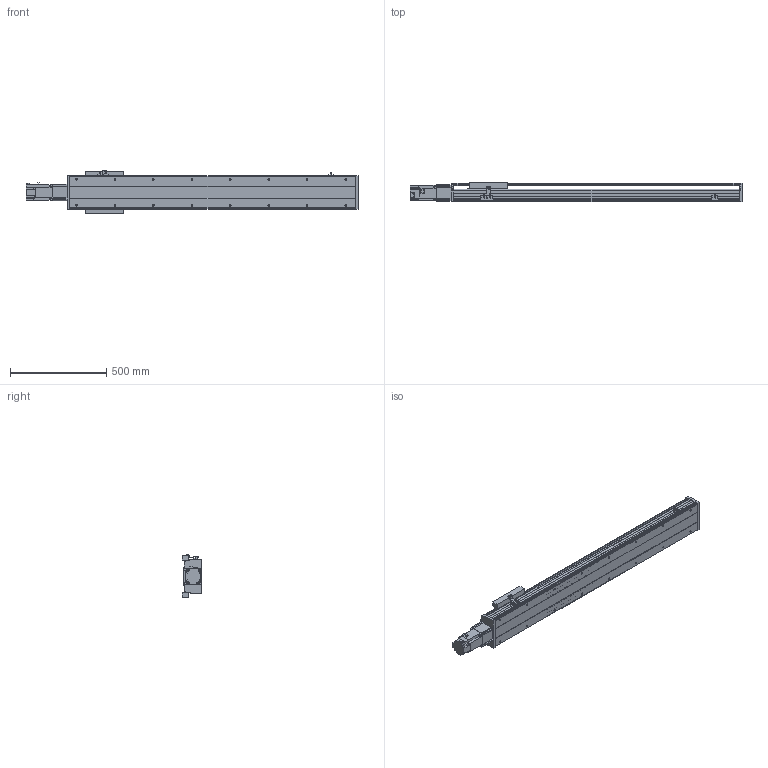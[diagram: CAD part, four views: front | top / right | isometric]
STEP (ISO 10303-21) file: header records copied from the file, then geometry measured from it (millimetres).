
FILE_DESCRIPTION(/* description */ ('STEP AP214'),/* implementation_level */ '2;1');
FILE_NAME(/* name */ 'PSS200-L10-S1150-BC-T75-C1-N(0)',/* time_stamp */ '2022-06-06T04:37:09+02:00',/* author */ ('License CC BY-ND 4.0'),/* organization */ ('CADENAS'),/* preprocessor_version */ 'ST-DEVELOPER v18.102',/* originating_system */ 'PARTsolutions',/* authorisation */ ' ');
FILE_SCHEMA (('AUTOMOTIVE_DESIGN {1 0 10303 214 3 1 1}'));
Length unit declared in the file: millimetre
Products named in the file (8): PSS200-L10-S1150-BC-T75-C1-N(0); PSS200-S1150-BC-N_S; T75-p1; PSS200BC-N_h; PSS200-N_sensor; PSS200-BC-C1-N_sl; PSS200-N_Q; PSS200-S1150-BC-C1-N_body
Assembly tree (9 placements, depth 2):
  PSS200-L10-S1150-BC-T75-C1-N(0)
    PSS200-S1150-BC-N_S
    T75-p1
    PSS200BC-N_h
    PSS200-N_sensor  x3
    PSS200-BC-C1-N_sl
    PSS200-N_Q
    PSS200-S1150-BC-C1-N_body
Bounding box: 1726.3 x 101.5 x 223.86 mm (x, y, z)
Volume: 9267583.9 mm3; surface area: 2408178.5 mm2
Topology: 9 solids, 9 shells, 585 faces, 1567 edges, 1040 vertices
Faces by surface type: plane 439, cylinder 122, cone 24
Full cylindrical faces by diameter (mm): 4 x2, 4.5 x4, 6 x11, 6.647 x20, 8 x8, 10 x6, 25 x1, 67 x1, 70 x1
Entity records: 16274 total; most frequent: CARTESIAN_POINT 2812, DIRECTION 2681, ORIENTED_EDGE 2654, EDGE_CURVE 1327, LINE 1051, VECTOR 1051, VERTEX_POINT 926, AXIS2_PLACEMENT_3D 815
